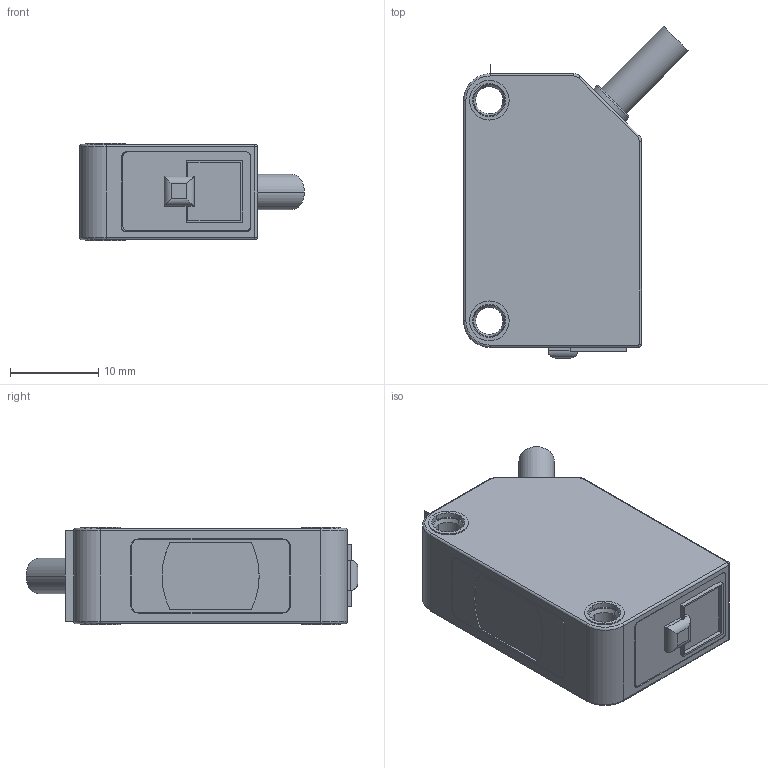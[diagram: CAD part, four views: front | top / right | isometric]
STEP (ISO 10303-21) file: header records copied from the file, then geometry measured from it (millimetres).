
FILE_DESCRIPTION((''),'2;1');
FILE_NAME('LT61_JIESHOU_ASM','2018-07-21T08:36:13',('Administrator'),(''),'CREO PARAMETRIC BY PTC INC, 2016390','CREO PARAMETRIC BY PTC INC, 2016390','');
FILE_SCHEMA(('CONFIG_CONTROL_DESIGN'));
Length unit declared in the file: millimetre
Products named in the file (6): 2018-3-30-15002_2; DENGZHOU; 2018-3-30-16022_20_A; LT61_JIESHOUDENGJIA; CH15003MOLD_1_10; LT61_JIESHOU_ASM
Assembly tree (5 placements, depth 2):
  LT61_JIESHOU_ASM
    2018-3-30-15002_2
    DENGZHOU
    2018-3-30-16022_20_A
    LT61_JIESHOUDENGJIA
    CH15003MOLD_1_10
Bounding box: 25.46 x 37.62 x 11.1 mm (x, y, z)
Volume: 3278.4 mm3; surface area: 6032.1 mm2
Topology: 6 solids, 6 shells, 380 faces, 1024 edges, 674 vertices
Faces by surface type: plane 210, cylinder 101, cone 47, torus 10, bspline 4, extrusion 4, sphere 4
Entity records: 12477 total; most frequent: CARTESIAN_POINT 2615, ORIENTED_EDGE 2048, DIRECTION 2022, EDGE_CURVE 1024, AXIS2_PLACEMENT_3D 681, VERTEX_POINT 674, VECTOR 660, LINE 656
